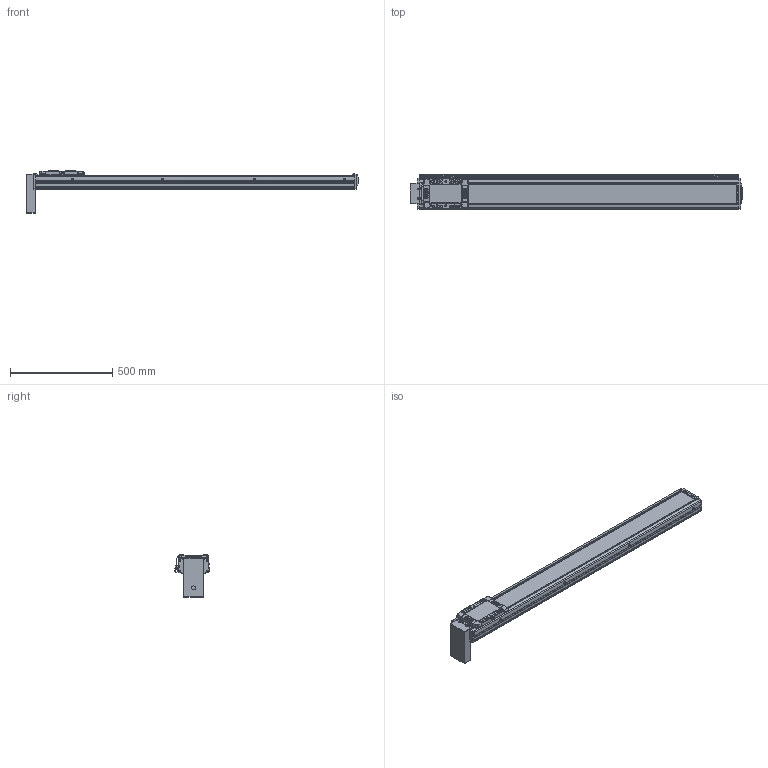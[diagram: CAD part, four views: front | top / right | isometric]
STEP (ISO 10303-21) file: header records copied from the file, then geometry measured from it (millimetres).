
FILE_DESCRIPTION(('STEP AP214'),'1');
FILE_NAME('Z:/Web/3D/SAN150/2013.04 (STP.)/SAN150ㅁㅁ-1300PB+3SL.stp','2013-05-07T08:44:25',(' '),(' '),'Spatial InterOp 3D',' ',' ');
FILE_SCHEMA(('automotive_design'));
Length unit declared in the file: millimetre
Products named in the file (62): SLBL-SAN150; SLCV-SAN150; FHCS M4.0 x 8.0; BHCS M4.0 x 10.0; SFX-SAN150; RRCV-SAN150; FRBL-SAN150; Spacer; RN15; FRCV-SAN150; Screw 20; BASE-SAN150-000L ; SUS COVER; 스크루 : Round - M5.0 x 6.0; PB; 스크루 : Round - M3.0 x 6.0; M3.0 x 6.0; SRL-16x17-360L; SGD-SAN150; EE-SX674; SBK-SX674-352
Bounding box: 1620 x 166 x 205.4 mm (x, y, z)
Volume: 9149927 mm3; surface area: 1758391.1 mm2
Topology: 62 solids, 62 shells, 2870 faces, 7373 edges, 4722 vertices
Faces by surface type: plane 1452, cylinder 959, cone 338, sphere 88, bspline 21, torus 12
Entity records: 114094 total; most frequent: CARTESIAN_POINT 18609, DIRECTION 15648, ORIENTED_EDGE 14466, EDGE_CURVE 7233, AXIS2_PLACEMENT_3D 5628, VERTEX_POINT 4722, LINE 4392, VECTOR 4392
